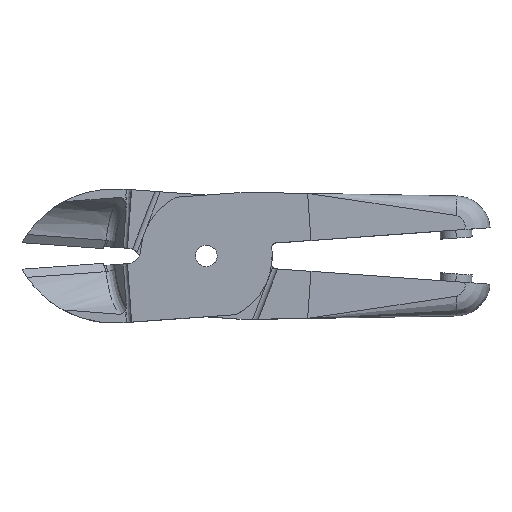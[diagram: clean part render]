
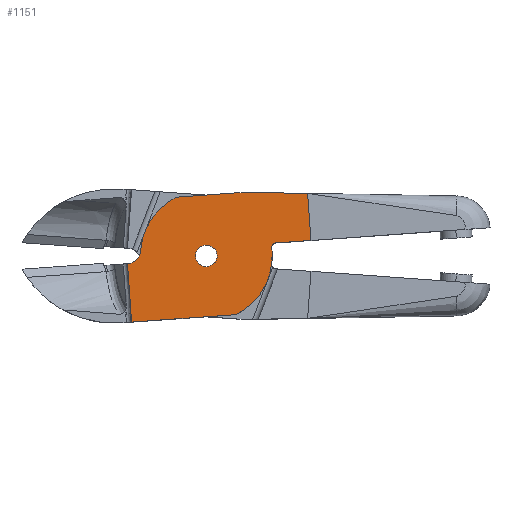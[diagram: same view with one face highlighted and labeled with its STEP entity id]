
A CAD part, top view. The second image highlights one B-rep face of the part: STEP entity #1151.
In plain terms, the highlighted planar face has unit normal (0, 0, 1).
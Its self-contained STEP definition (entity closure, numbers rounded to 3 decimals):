
#6 = ORIENTED_EDGE ( 'NONE', *, *, #1744, .F. ) ;
#101 = CARTESIAN_POINT ( 'NONE',  ( -15., -11.5, 0. ) ) ;
#117 = ORIENTED_EDGE ( 'NONE', *, *, #2109, .T. ) ;
#184 = EDGE_CURVE ( 'NONE', #3156, #4851, #272, .T. ) ;
#272 = LINE ( 'NONE', #4148, #2468 ) ;
#317 = CARTESIAN_POINT ( 'NONE',  ( -15., 0., 0. ) ) ;
#449 = DIRECTION ( 'NONE',  ( 1., 0., 0. ) ) ;
#539 = VECTOR ( 'NONE', #3638, 1000. ) ;
#562 = ORIENTED_EDGE ( 'NONE', *, *, #4969, .T. ) ;
#576 = B_SPLINE_CURVE_WITH_KNOTS ( 'NONE', 3,
 ( #2155, #2524, #2586, #2627, #2948, #2967 ),
 .UNSPECIFIED., .F., .F.,
 ( 4, 2, 4 ),
 ( 0., 0.5, 1. ),
 .UNSPECIFIED. ) ;
#612 = CARTESIAN_POINT ( 'NONE',  ( 2.5, 1.5, 0. ) ) ;
#617 = AXIS2_PLACEMENT_3D ( 'NONE', #2471, #2355, #2042 ) ;
#619 = VERTEX_POINT ( 'NONE', #2067 ) ;
#721 = AXIS2_PLACEMENT_3D ( 'NONE', #4577, #2114, #4987 ) ;
#733 = EDGE_CURVE ( 'NONE', #1128, #812, #4839, .T. ) ;
#812 = VERTEX_POINT ( 'NONE', #2991 ) ;
#816 = AXIS2_PLACEMENT_3D ( 'NONE', #4623, #966, #2575 ) ;
#845 = VECTOR ( 'NONE', #4288, 1000. ) ;
#869 = CIRCLE ( 'NONE', #617, 2.05 ) ;
#885 = DIRECTION ( 'NONE',  ( 0., 0., 1. ) ) ;
#912 = CIRCLE ( 'NONE', #4942, 12.5 ) ;
#966 = DIRECTION ( 'NONE',  ( 0., 0., 1. ) ) ;
#982 = LINE ( 'NONE', #3205, #5199 ) ;
#1022 = VERTEX_POINT ( 'NONE', #5076 ) ;
#1029 = VERTEX_POINT ( 'NONE', #2149 ) ;
#1122 = CIRCLE ( 'NONE', #4828, 12.5 ) ;
#1128 = VERTEX_POINT ( 'NONE', #4570 ) ;
#1151 = ADVANCED_FACE ( 'NONE', ( #1897, #1779 ), #4219, .T. ) ;
#1263 = AXIS2_PLACEMENT_3D ( 'NONE', #5158, #4343, #2228 ) ;
#1409 = CARTESIAN_POINT ( 'NONE',  ( 2.5, 11.5, 0. ) ) ;
#1440 = VECTOR ( 'NONE', #2463, 1000. ) ;
#1488 = EDGE_CURVE ( 'NONE', #4780, #2574, #1122, .T. ) ;
#1504 = VERTEX_POINT ( 'NONE', #3343 ) ;
#1530 = CARTESIAN_POINT ( 'NONE',  ( -4.899, 11.5, 0. ) ) ;
#1564 = EDGE_CURVE ( 'NONE', #812, #1128, #869, .T. ) ;
#1587 = CARTESIAN_POINT ( 'NONE',  ( 20., 0., 0. ) ) ;
#1641 = ORIENTED_EDGE ( 'NONE', *, *, #2382, .T. ) ;
#1744 = EDGE_CURVE ( 'NONE', #4663, #3156, #576, .T. ) ;
#1779 = FACE_OUTER_BOUND ( 'NONE', #4266, .T. ) ;
#1897 = FACE_BOUND ( 'NONE', #3790, .T. ) ;
#1943 = VECTOR ( 'NONE', #449, 1000. ) ;
#1951 = ORIENTED_EDGE ( 'NONE', *, *, #2683, .T. ) ;
#1990 = CIRCLE ( 'NONE', #721, 2.5 ) ;
#2042 = DIRECTION ( 'NONE',  ( -1., 0., 0. ) ) ;
#2053 = CARTESIAN_POINT ( 'NONE',  ( 20., 10.438, 0. ) ) ;
#2067 = CARTESIAN_POINT ( 'NONE',  ( 8., 11.5, 0. ) ) ;
#2109 = EDGE_CURVE ( 'NONE', #3666, #3710, #4074, .T. ) ;
#2114 = DIRECTION ( 'NONE',  ( 0., 0., -1. ) ) ;
#2149 = CARTESIAN_POINT ( 'NONE',  ( 20., 1.5, 0. ) ) ;
#2155 = CARTESIAN_POINT ( 'NONE',  ( 13.3, 1.5, 0. ) ) ;
#2228 = DIRECTION ( 'NONE',  ( 1., 0., 0. ) ) ;
#2335 = DIRECTION ( 'NONE',  ( 0., 0., 1. ) ) ;
#2355 = DIRECTION ( 'NONE',  ( 0., 0., 1. ) ) ;
#2366 = CARTESIAN_POINT ( 'NONE',  ( -15., -0.4, 0. ) ) ;
#2382 = EDGE_CURVE ( 'NONE', #1029, #3294, #3684, .T. ) ;
#2396 = ORIENTED_EDGE ( 'NONE', *, *, #184, .F. ) ;
#2442 = VECTOR ( 'NONE', #3482, 1000. ) ;
#2463 = DIRECTION ( 'NONE',  ( 1., 0., 0. ) ) ;
#2468 = VECTOR ( 'NONE', #4245, 1000. ) ;
#2471 = CARTESIAN_POINT ( 'NONE',  ( 0., 0., 0. ) ) ;
#2524 = CARTESIAN_POINT ( 'NONE',  ( 13.091, 1.5, 0. ) ) ;
#2574 = VERTEX_POINT ( 'NONE', #4541 ) ;
#2575 = DIRECTION ( 'NONE',  ( -1., 0., 0. ) ) ;
#2586 = CARTESIAN_POINT ( 'NONE',  ( 12.882, 1.414, 0. ) ) ;
#2627 = CARTESIAN_POINT ( 'NONE',  ( 12.586, 1.118, 0. ) ) ;
#2661 = CARTESIAN_POINT ( 'NONE',  ( 12.5, 0.7, 0. ) ) ;
#2668 = ORIENTED_EDGE ( 'NONE', *, *, #4521, .T. ) ;
#2683 = EDGE_CURVE ( 'NONE', #3710, #1504, #4135, .T. ) ;
#2825 = CARTESIAN_POINT ( 'NONE',  ( 12.5, 0., 0. ) ) ;
#2892 = LINE ( 'NONE', #1409, #845 ) ;
#2900 = EDGE_CURVE ( 'NONE', #3666, #1022, #4585, .T. ) ;
#2905 = DIRECTION ( 'NONE',  ( 1., 0., 0. ) ) ;
#2948 = CARTESIAN_POINT ( 'NONE',  ( 12.5, 0.909, 0. ) ) ;
#2967 = CARTESIAN_POINT ( 'NONE',  ( 12.5, 0.7, 0. ) ) ;
#2991 = CARTESIAN_POINT ( 'NONE',  ( 2.05, 0., 0. ) ) ;
#3156 = VERTEX_POINT ( 'NONE', #2661 ) ;
#3182 = EDGE_CURVE ( 'NONE', #4663, #1029, #3548, .T. ) ;
#3205 = CARTESIAN_POINT ( 'NONE',  ( 20., 10.438, 0. ) ) ;
#3294 = VERTEX_POINT ( 'NONE', #2053 ) ;
#3307 = ORIENTED_EDGE ( 'NONE', *, *, #2900, .F. ) ;
#3342 = CARTESIAN_POINT ( 'NONE',  ( 0., 0., 0. ) ) ;
#3343 = CARTESIAN_POINT ( 'NONE',  ( 4.899, -11.5, 0. ) ) ;
#3452 = CARTESIAN_POINT ( 'NONE',  ( 0., 0., 0. ) ) ;
#3482 = DIRECTION ( 'NONE',  ( 1., 0., 0. ) ) ;
#3548 = LINE ( 'NONE', #612, #2442 ) ;
#3613 = DIRECTION ( 'NONE',  ( -0.996, 0.088, 0. ) ) ;
#3638 = DIRECTION ( 'NONE',  ( 0., 1., 0. ) ) ;
#3666 = VERTEX_POINT ( 'NONE', #2366 ) ;
#3684 = LINE ( 'NONE', #1587, #539 ) ;
#3710 = VERTEX_POINT ( 'NONE', #101 ) ;
#3753 = DIRECTION ( 'NONE',  ( 1., 0., 0. ) ) ;
#3790 = EDGE_LOOP ( 'NONE', ( #4143, #4247 ) ) ;
#4074 = LINE ( 'NONE', #317, #5162 ) ;
#4135 = LINE ( 'NONE', #4961, #1943 ) ;
#4143 = ORIENTED_EDGE ( 'NONE', *, *, #733, .F. ) ;
#4148 = CARTESIAN_POINT ( 'NONE',  ( 12.5, 0.35, 0. ) ) ;
#4219 = PLANE ( 'NONE',  #1263 ) ;
#4245 = DIRECTION ( 'NONE',  ( 0., -1., 0. ) ) ;
#4247 = ORIENTED_EDGE ( 'NONE', *, *, #1564, .F. ) ;
#4266 = EDGE_LOOP ( 'NONE', ( #562, #2396, #6, #5047, #1641, #4881, #2668, #5120, #5171, #3307, #117, #1951 ) ) ;
#4288 = DIRECTION ( 'NONE',  ( -1., 0., 0. ) ) ;
#4343 = DIRECTION ( 'NONE',  ( 0., 0., 1. ) ) ;
#4428 = EDGE_CURVE ( 'NONE', #3294, #619, #982, .T. ) ;
#4521 = EDGE_CURVE ( 'NONE', #619, #4780, #2892, .T. ) ;
#4541 = CARTESIAN_POINT ( 'NONE',  ( -12.377, 1.75, 0. ) ) ;
#4570 = CARTESIAN_POINT ( 'NONE',  ( -2.05, 0., 0. ) ) ;
#4577 = CARTESIAN_POINT ( 'NONE',  ( -14.852, 2.1, 0. ) ) ;
#4585 = LINE ( 'NONE', #4922, #1440 ) ;
#4596 = DIRECTION ( 'NONE',  ( 0., -1., 0. ) ) ;
#4623 = CARTESIAN_POINT ( 'NONE',  ( 0., 0., 0. ) ) ;
#4663 = VERTEX_POINT ( 'NONE', #4739 ) ;
#4739 = CARTESIAN_POINT ( 'NONE',  ( 13.3, 1.5, 0. ) ) ;
#4780 = VERTEX_POINT ( 'NONE', #1530 ) ;
#4828 = AXIS2_PLACEMENT_3D ( 'NONE', #3452, #2335, #2905 ) ;
#4839 = CIRCLE ( 'NONE', #816, 2.05 ) ;
#4851 = VERTEX_POINT ( 'NONE', #2825 ) ;
#4881 = ORIENTED_EDGE ( 'NONE', *, *, #4428, .T. ) ;
#4922 = CARTESIAN_POINT ( 'NONE',  ( -17.199, -0.4, 0. ) ) ;
#4942 = AXIS2_PLACEMENT_3D ( 'NONE', #3342, #885, #3753 ) ;
#4961 = CARTESIAN_POINT ( 'NONE',  ( 2.5, -11.5, 0. ) ) ;
#4969 = EDGE_CURVE ( 'NONE', #1504, #4851, #912, .T. ) ;
#4987 = DIRECTION ( 'NONE',  ( -1., 0., 0. ) ) ;
#5003 = EDGE_CURVE ( 'NONE', #2574, #1022, #1990, .T. ) ;
#5047 = ORIENTED_EDGE ( 'NONE', *, *, #3182, .T. ) ;
#5076 = CARTESIAN_POINT ( 'NONE',  ( -14.852, -0.4, 0. ) ) ;
#5120 = ORIENTED_EDGE ( 'NONE', *, *, #1488, .T. ) ;
#5158 = CARTESIAN_POINT ( 'NONE',  ( -15., -11.5, 0. ) ) ;
#5162 = VECTOR ( 'NONE', #4596, 1000. ) ;
#5171 = ORIENTED_EDGE ( 'NONE', *, *, #5003, .T. ) ;
#5199 = VECTOR ( 'NONE', #3613, 1000. ) ;
